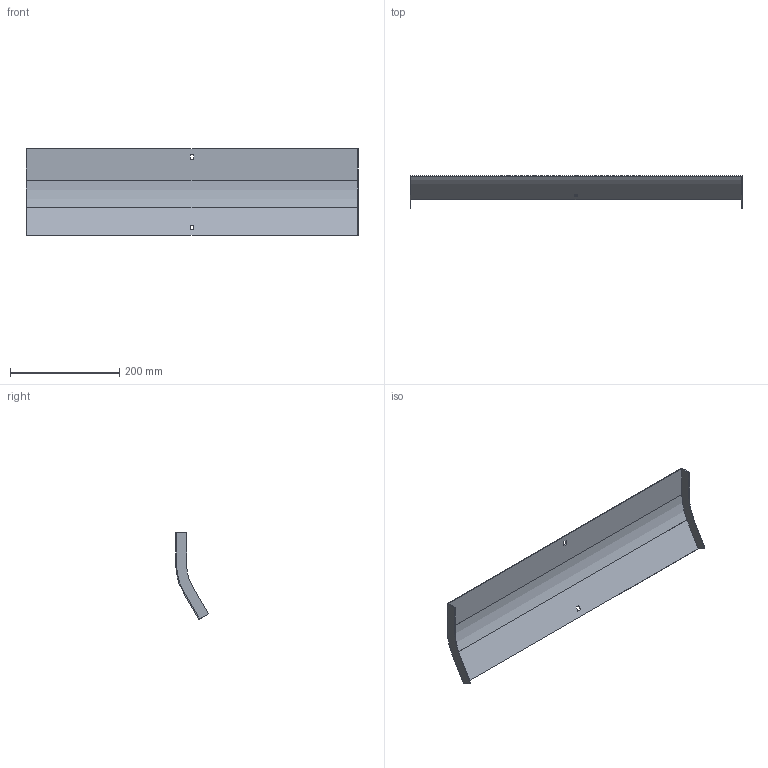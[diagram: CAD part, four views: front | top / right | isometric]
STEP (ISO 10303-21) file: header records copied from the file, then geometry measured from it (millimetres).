
FILE_DESCRIPTION (( 'STEP AP214' ), '1' );
FILE_NAME ('35G1D600.step', '2025-02-21T12:40:54', ( '' ), ( '' ), 'SwSTEP 2.0', 'SolidWorks 2023', '' );
FILE_SCHEMA (( 'AUTOMOTIVE_DESIGN' ));
Length unit declared in the file: millimetre
Products named in the file (1): 35G1D600
Bounding box: 607 x 59.87 x 158.79 mm (x, y, z)
Volume: 162355.7 mm3; surface area: 218975.9 mm2
Topology: 1 solids, 1 shells, 26 faces, 72 edges, 48 vertices
Faces by surface type: plane 22, cylinder 4
Entity records: 855 total; most frequent: CARTESIAN_POINT 147, ORIENTED_EDGE 144, DIRECTION 134, EDGE_CURVE 72, VECTOR 64, LINE 64, VERTEX_POINT 48, AXIS2_PLACEMENT_3D 35
